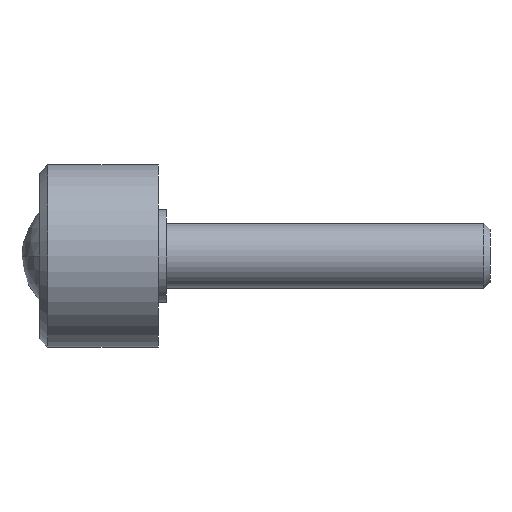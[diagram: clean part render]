
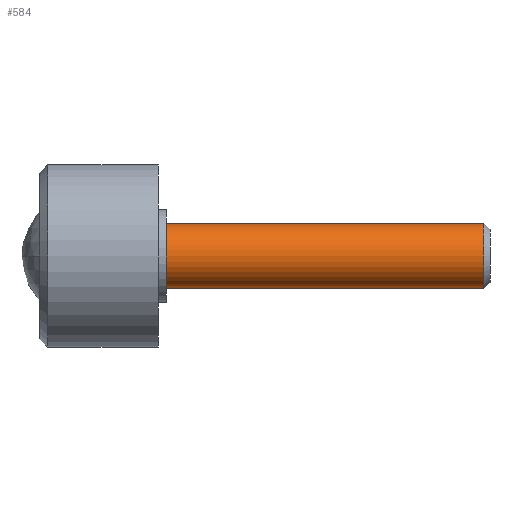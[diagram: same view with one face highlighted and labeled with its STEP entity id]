
A CAD part, left-side view. The second image highlights one B-rep face of the part: STEP entity #584.
In plain terms, the highlighted cylindrical face has radius 8 mm (diameter 16 mm), a partial arc.
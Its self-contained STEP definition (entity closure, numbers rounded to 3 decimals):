
#32 = CIRCLE ( 'NONE', #220, 8. ) ;
#35 = CARTESIAN_POINT ( 'NONE',  ( 0., -80.5, -8. ) ) ;
#51 = CARTESIAN_POINT ( 'NONE',  ( 0., -2., -8. ) ) ;
#56 = CIRCLE ( 'NONE', #465, 8. ) ;
#79 = ORIENTED_EDGE ( 'NONE', *, *, #746, .T. ) ;
#145 = VECTOR ( 'NONE', #640, 1000. ) ;
#146 = CARTESIAN_POINT ( 'NONE',  ( 0., -82., -8. ) ) ;
#175 = ORIENTED_EDGE ( 'NONE', *, *, #615, .F. ) ;
#184 = DIRECTION ( 'NONE',  ( 0., 1., 0. ) ) ;
#208 = LINE ( 'NONE', #146, #145 ) ;
#211 = FACE_OUTER_BOUND ( 'NONE', #310, .T. ) ;
#220 = AXIS2_PLACEMENT_3D ( 'NONE', #381, #628, #645 ) ;
#223 = CARTESIAN_POINT ( 'NONE',  ( 0., -2., 8. ) ) ;
#281 = AXIS2_PLACEMENT_3D ( 'NONE', #516, #446, #577 ) ;
#310 = EDGE_LOOP ( 'NONE', ( #175, #620, #366, #79 ) ) ;
#313 = VERTEX_POINT ( 'NONE', #598 ) ;
#328 = VERTEX_POINT ( 'NONE', #51 ) ;
#366 = ORIENTED_EDGE ( 'NONE', *, *, #474, .T. ) ;
#381 = CARTESIAN_POINT ( 'NONE',  ( 0., -80.5, 0. ) ) ;
#421 = VECTOR ( 'NONE', #184, 1000. ) ;
#446 = DIRECTION ( 'NONE',  ( 0., 1., 0. ) ) ;
#465 = AXIS2_PLACEMENT_3D ( 'NONE', #651, #593, #725 ) ;
#474 = EDGE_CURVE ( 'NONE', #313, #731, #622, .T. ) ;
#516 = CARTESIAN_POINT ( 'NONE',  ( 0., -82., 0. ) ) ;
#558 = EDGE_CURVE ( 'NONE', #631, #313, #32, .T. ) ;
#562 = CARTESIAN_POINT ( 'NONE',  ( 0., -82., 8. ) ) ;
#577 = DIRECTION ( 'NONE',  ( 0., 0., 1. ) ) ;
#584 = ADVANCED_FACE ( 'NONE', ( #211 ), #756, .T. ) ;
#593 = DIRECTION ( 'NONE',  ( 0., -1., 0. ) ) ;
#598 = CARTESIAN_POINT ( 'NONE',  ( 0., -80.5, 8. ) ) ;
#615 = EDGE_CURVE ( 'NONE', #631, #328, #208, .T. ) ;
#620 = ORIENTED_EDGE ( 'NONE', *, *, #558, .T. ) ;
#622 = LINE ( 'NONE', #562, #421 ) ;
#628 = DIRECTION ( 'NONE',  ( 0., 1., 0. ) ) ;
#631 = VERTEX_POINT ( 'NONE', #35 ) ;
#640 = DIRECTION ( 'NONE',  ( 0., 1., 0. ) ) ;
#645 = DIRECTION ( 'NONE',  ( 0., 0., -1. ) ) ;
#651 = CARTESIAN_POINT ( 'NONE',  ( 0., -2., 0. ) ) ;
#725 = DIRECTION ( 'NONE',  ( 0., 0., -1. ) ) ;
#731 = VERTEX_POINT ( 'NONE', #223 ) ;
#746 = EDGE_CURVE ( 'NONE', #731, #328, #56, .T. ) ;
#756 = CYLINDRICAL_SURFACE ( 'NONE', #281, 8. ) ;
